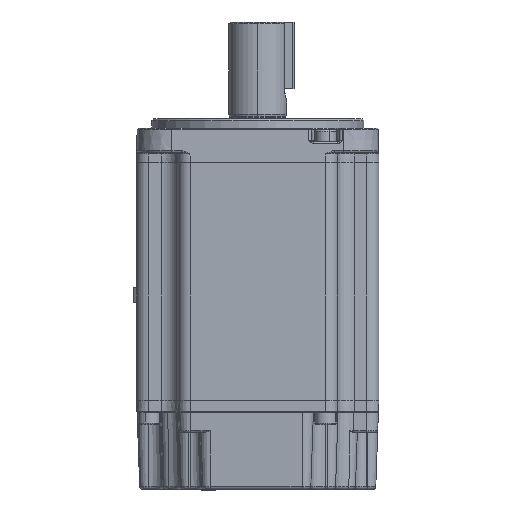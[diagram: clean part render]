
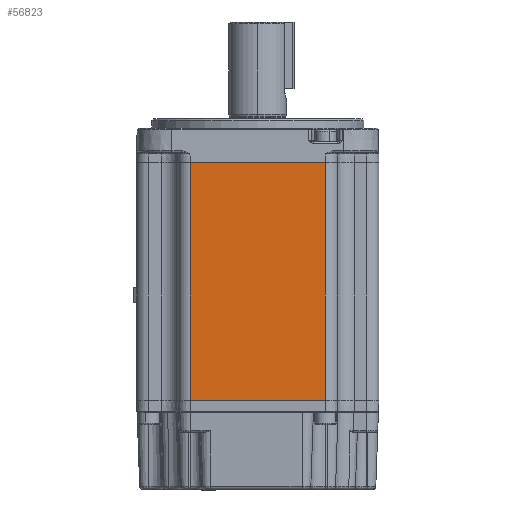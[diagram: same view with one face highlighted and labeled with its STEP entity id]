
A CAD part, front view. The second image highlights one B-rep face of the part: STEP entity #56823.
In plain terms, the highlighted planar face has unit normal (0, -1, 0).
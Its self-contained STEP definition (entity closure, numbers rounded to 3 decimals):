
#3074 = ORIENTED_EDGE ( 'NONE', *, *, #55719, .F. ) ;
#4478 = LINE ( 'NONE', #42739, #25544 ) ;
#10215 = DIRECTION ( 'NONE',  ( 0., 0., -1. ) ) ;
#10435 = CARTESIAN_POINT ( 'NONE',  ( 22.3, -40., -39.2 ) ) ;
#13730 = CARTESIAN_POINT ( 'NONE',  ( -22.3, -40., -39.2 ) ) ;
#14091 = CARTESIAN_POINT ( 'NONE',  ( -22.3, -40., 39.2 ) ) ;
#15222 = VECTOR ( 'NONE', #60849, 1000. ) ;
#15907 = VECTOR ( 'NONE', #34698, 1000. ) ;
#19695 = FACE_OUTER_BOUND ( 'NONE', #43921, .T. ) ;
#25544 = VECTOR ( 'NONE', #26165, 1000. ) ;
#25614 = VECTOR ( 'NONE', #10215, 1000. ) ;
#26018 = ORIENTED_EDGE ( 'NONE', *, *, #57871, .F. ) ;
#26165 = DIRECTION ( 'NONE',  ( 1., 0., 0. ) ) ;
#27350 = VERTEX_POINT ( 'NONE', #14091 ) ;
#32146 = VERTEX_POINT ( 'NONE', #32496 ) ;
#32496 = CARTESIAN_POINT ( 'NONE',  ( 22.3, -40., 39.2 ) ) ;
#33401 = LINE ( 'NONE', #34932, #15907 ) ;
#34186 = DIRECTION ( 'NONE',  ( -1., 0., 0. ) ) ;
#34698 = DIRECTION ( 'NONE',  ( -1., 0., 0. ) ) ;
#34932 = CARTESIAN_POINT ( 'NONE',  ( -22.3, -40., -39.2 ) ) ;
#36576 = VERTEX_POINT ( 'NONE', #13730 ) ;
#37916 = AXIS2_PLACEMENT_3D ( 'NONE', #51230, #67894, #34186 ) ;
#39285 = PLANE ( 'NONE',  #37916 ) ;
#40585 = LINE ( 'NONE', #54968, #15222 ) ;
#41432 = EDGE_CURVE ( 'NONE', #32146, #56717, #40585, .T. ) ;
#42739 = CARTESIAN_POINT ( 'NONE',  ( -22.3, -40., 39.2 ) ) ;
#43706 = CARTESIAN_POINT ( 'NONE',  ( -22.3, -40., 40.2 ) ) ;
#43921 = EDGE_LOOP ( 'NONE', ( #3074, #51075, #26018, #43988 ) ) ;
#43988 = ORIENTED_EDGE ( 'NONE', *, *, #44601, .T. ) ;
#44601 = EDGE_CURVE ( 'NONE', #27350, #36576, #57008, .T. ) ;
#51075 = ORIENTED_EDGE ( 'NONE', *, *, #41432, .F. ) ;
#51230 = CARTESIAN_POINT ( 'NONE',  ( -22.3, -40., 40.2 ) ) ;
#54968 = CARTESIAN_POINT ( 'NONE',  ( 22.3, -40., 40.2 ) ) ;
#55719 = EDGE_CURVE ( 'NONE', #56717, #36576, #33401, .T. ) ;
#56717 = VERTEX_POINT ( 'NONE', #10435 ) ;
#56823 = ADVANCED_FACE ( 'NONE', ( #19695 ), #39285, .F. ) ;
#57008 = LINE ( 'NONE', #43706, #25614 ) ;
#57871 = EDGE_CURVE ( 'NONE', #27350, #32146, #4478, .T. ) ;
#60849 = DIRECTION ( 'NONE',  ( 0., 0., -1. ) ) ;
#67894 = DIRECTION ( 'NONE',  ( 0., 1., 0. ) ) ;
